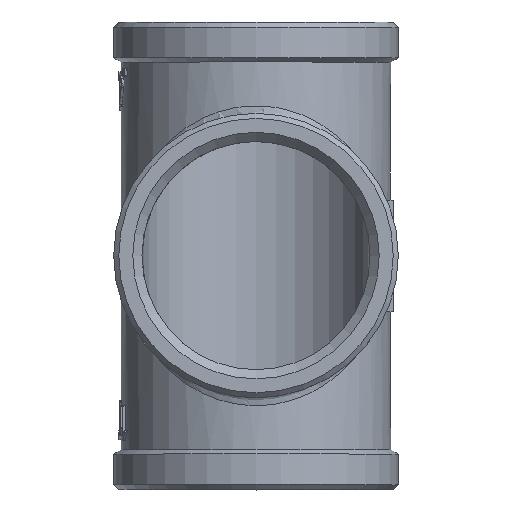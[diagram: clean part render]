
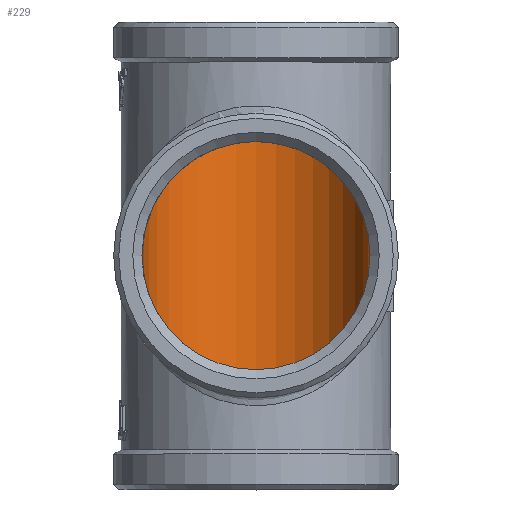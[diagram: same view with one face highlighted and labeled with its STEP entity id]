
A CAD part, top view. The second image highlights one B-rep face of the part: STEP entity #229.
In plain terms, the highlighted cylindrical face has radius 22.45 mm (diameter 44.9 mm), a full revolution.
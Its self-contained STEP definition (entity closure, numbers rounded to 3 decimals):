
#229=ADVANCED_FACE('',(#2057,#2059,#2061),#2063,.F.);
#2057=FACE_BOUND('',#2058,.T.);
#2058=EDGE_LOOP('',(#4503,#4504,#4505));
#2059=FACE_OUTER_BOUND('',#2060,.T.);
#2060=EDGE_LOOP('',(#4506));
#2061=FACE_OUTER_BOUND('',#2062,.T.);
#2062=EDGE_LOOP('',(#4507));
#2063=CYLINDRICAL_SURFACE('',#2064,22.45);
#2064=AXIS2_PLACEMENT_3D('',#2065,#2066,#2067);
#2065=CARTESIAN_POINT('',(0.,-47.,0.));
#2066=DIRECTION('',(0.,1.,0.));
#2067=DIRECTION('',(-1.,0.,0.));
#4503=ORIENTED_EDGE('',*,*,#6330,.T.);
#4504=ORIENTED_EDGE('',*,*,#6329,.T.);
#4505=ORIENTED_EDGE('',*,*,#6328,.T.);
#4506=ORIENTED_EDGE('',*,*,#6327,.T.);
#4507=ORIENTED_EDGE('',*,*,#6326,.T.);
#6326=EDGE_CURVE('',#7837,#7837,#7838,.F.);
#6327=EDGE_CURVE('',#7839,#7839,#7840,.T.);
#6328=EDGE_CURVE('',#7841,#7842,#7843,.T.);
#6329=EDGE_CURVE('',#7844,#7841,#7845,.F.);
#6330=EDGE_CURVE('',#7842,#7844,#7846,.F.);
#7837=VERTEX_POINT('',#14961);
#7838=CIRCLE('',#14962,22.45);
#7839=VERTEX_POINT('',#14966);
#7840=CIRCLE('',#14967,22.45);
#7841=VERTEX_POINT('',#14971);
#7842=VERTEX_POINT('',#14972);
#7843=(BOUNDED_CURVE()B_SPLINE_CURVE(3,
(#14973,#14974,#14975,#14976),
.UNSPECIFIED.,.F.,.F.)B_SPLINE_CURVE_WITH_KNOTS((4,4),
(0.,1.),
.UNSPECIFIED.)CURVE()GEOMETRIC_REPRESENTATION_ITEM()RATIONAL_B_SPLINE_CURVE((1.,
0.333,0.333,1.))REPRESENTATION_ITEM(''));
#7844=VERTEX_POINT('',#14977);
#7845=(BOUNDED_CURVE()B_SPLINE_CURVE(3,
(#14978,#14979,#14980,#14981),
.UNSPECIFIED.,.F.,.F.)B_SPLINE_CURVE_WITH_KNOTS((4,4),
(0.,1.),
.UNSPECIFIED.)CURVE()GEOMETRIC_REPRESENTATION_ITEM()RATIONAL_B_SPLINE_CURVE((1.,
0.805,0.805,1.))REPRESENTATION_ITEM(''));
#7846=(BOUNDED_CURVE()B_SPLINE_CURVE(3,
(#14982,#14983,#14984,#14985),
.UNSPECIFIED.,.F.,.F.)B_SPLINE_CURVE_WITH_KNOTS((4,4),
(0.,1.),
.UNSPECIFIED.)CURVE()GEOMETRIC_REPRESENTATION_ITEM()RATIONAL_B_SPLINE_CURVE((1.,
0.805,0.805,1.))REPRESENTATION_ITEM(''));
#14961=CARTESIAN_POINT('',(-22.45,-44.2,0.));
#14962=AXIS2_PLACEMENT_3D('',#14963,#14964,#14965);
#14963=CARTESIAN_POINT('',(0.,-44.2,0.));
#14964=DIRECTION('',(0.,1.,0.));
#14965=DIRECTION('',(-1.,0.,0.));
#14966=CARTESIAN_POINT('',(-22.45,44.2,0.));
#14967=AXIS2_PLACEMENT_3D('',#14968,#14969,#14970);
#14968=CARTESIAN_POINT('',(0.,44.2,0.));
#14969=DIRECTION('',(0.,1.,0.));
#14970=DIRECTION('',(-1.,0.,0.));
#14971=CARTESIAN_POINT('',(-22.45,0.,0.));
#14972=CARTESIAN_POINT('',(22.45,0.,0.));
#14973=CARTESIAN_POINT('',(-22.45,0.,0.));
#14974=CARTESIAN_POINT('',(-22.45,-44.9,44.9));
#14975=CARTESIAN_POINT('',(22.45,-44.9,44.9));
#14976=CARTESIAN_POINT('',(22.45,0.,0.));
#14977=CARTESIAN_POINT('',(0.,22.45,22.45));
#14978=CARTESIAN_POINT('',(-22.45,0.,0.));
#14979=CARTESIAN_POINT('',(-22.45,13.151,13.151));
#14980=CARTESIAN_POINT('',(-13.151,22.45,22.45));
#14981=CARTESIAN_POINT('',(0.,22.45,22.45));
#14982=CARTESIAN_POINT('',(0.,22.45,22.45));
#14983=CARTESIAN_POINT('',(13.151,22.45,22.45));
#14984=CARTESIAN_POINT('',(22.45,13.151,13.151));
#14985=CARTESIAN_POINT('',(22.45,0.,0.));
